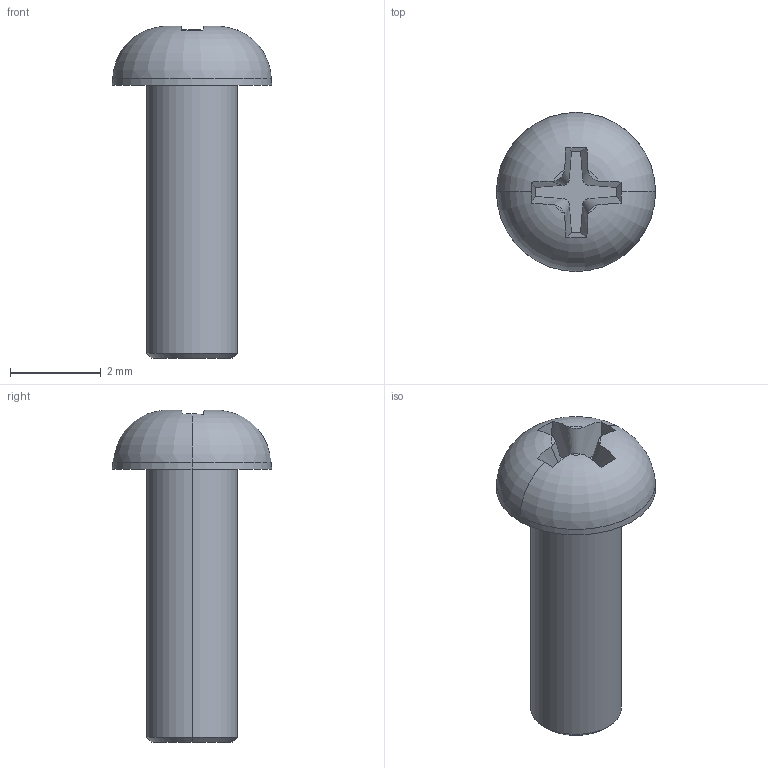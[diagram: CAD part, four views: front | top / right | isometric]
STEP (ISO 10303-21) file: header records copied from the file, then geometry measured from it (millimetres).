
FILE_DESCRIPTION (( 'STEP AP214' ), '1' );
FILE_NAME ('SCREW M2 X6 MM.STEP', '2024-06-18T04:23:19', ( '' ), ( '' ), 'SwSTEP 2.0', 'SolidWorks 2023', '' );
FILE_SCHEMA (( 'AUTOMOTIVE_DESIGN' ));
Length unit declared in the file: millimetre
Products named in the file (1): SCREW M2 X6 MM
Bounding box: 3.5 x 3.5 x 7.3 mm (x, y, z)
Volume: 27.3 mm3; surface area: 69 mm2
Topology: 1 solids, 1 shells, 24 faces, 68 edges, 47 vertices
Faces by surface type: plane 11, bspline 5, cone 4, cylinder 2, torus 2
Entity records: 978 total; most frequent: CARTESIAN_POINT 351, ORIENTED_EDGE 136, DIRECTION 113, EDGE_CURVE 68, VERTEX_POINT 47, AXIS2_PLACEMENT_3D 43, LINE 27, VECTOR 27
